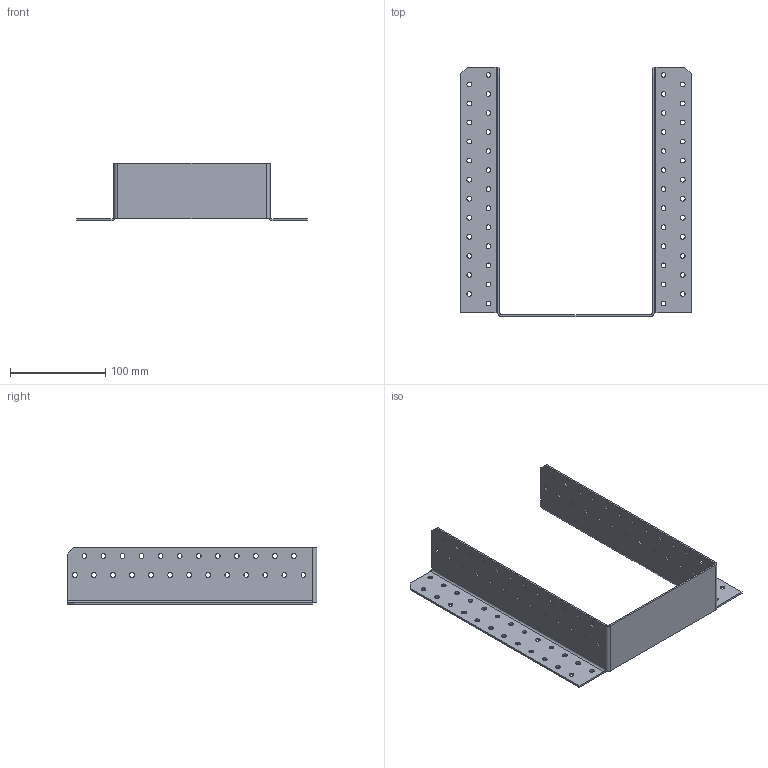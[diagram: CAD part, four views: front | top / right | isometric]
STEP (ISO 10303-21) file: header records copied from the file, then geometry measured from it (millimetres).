
FILE_DESCRIPTION (( 'STEP AP203' ), '1' );
FILE_NAME ('405612.STEP', '2021-04-17T17:18:17', ( '' ), ( '' ), 'SwSTEP 2.0', 'SolidWorks 2013', '' );
FILE_SCHEMA (( 'CONFIG_CONTROL_DESIGN' ));
Length unit declared in the file: millimetre
Products named in the file (1): 405612
Bounding box: 242 x 262 x 60 mm (x, y, z)
Volume: 115905.5 mm3; surface area: 122291 mm2
Topology: 1 solids, 1 shells, 244 faces, 696 edges, 454 vertices
Faces by surface type: cylinder 208, plane 36
Entity records: 8635 total; most frequent: DIRECTION 1604, CARTESIAN_POINT 1395, ORIENTED_EDGE 1392, EDGE_CURVE 696, AXIS2_PLACEMENT_3D 663, VERTEX_POINT 454, EDGE_LOOP 444, CIRCLE 418
